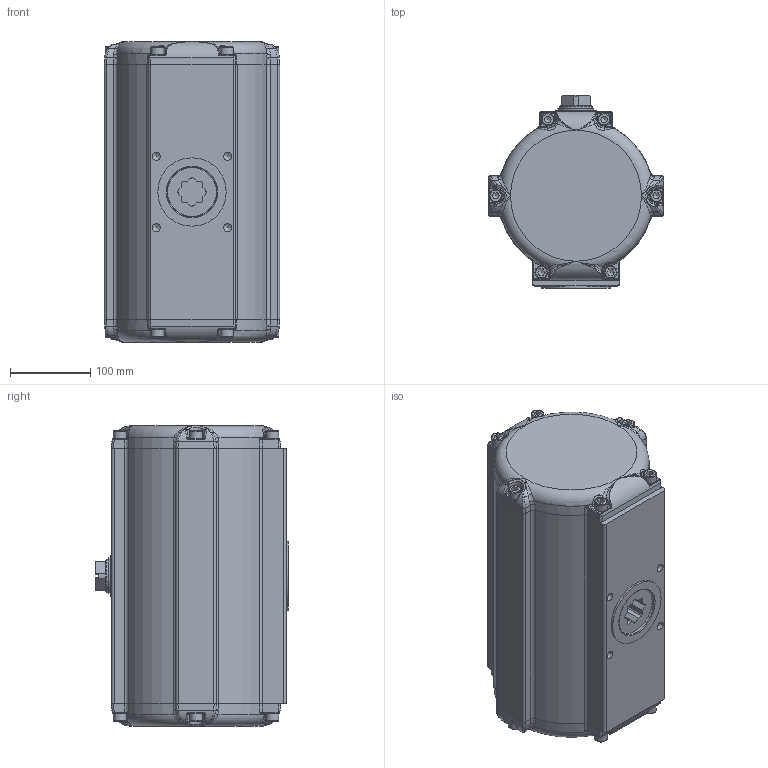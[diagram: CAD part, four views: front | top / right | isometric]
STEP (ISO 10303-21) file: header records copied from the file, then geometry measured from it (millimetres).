
FILE_DESCRIPTION((''),'2;1');
FILE_NAME('C:\Dokumente und Einstellungen\ko-p\Desktop\SAD_35-135°_BR03.stp','2011-02-02T09:26:10',('war'),(''),'Autodesk Inventor 2010','Autodesk Inventor 2010','');
FILE_SCHEMA(('AUTOMOTIVE_DESIGN { 1 0 10303 214 1 1 1 1 }'));
Length unit declared in the file: millimetre
Products named in the file (1): ENG-051464_Konturvereinfachung_1
Bounding box: 218 x 240 x 373.4 mm (x, y, z)
Surface area: 464991.3 mm2 (no closed solid volume)
Topology: 0 solids, 24 shells, 599 faces, 2090 edges, 1454 vertices
Faces by surface type: bspline 209, plane 201, cylinder 130, cone 38, torus 21
Full cylindrical faces by diameter (mm): 16 x12, 37 x1, 39.8 x1, 60 x1, 85 x1, 176 x1
Entity records: 29944 total; most frequent: CARTESIAN_POINT 14135, ORIENTED_EDGE 3198, DIRECTION 2498, EDGE_CURVE 1960, VERTEX_POINT 1410, AXIS2_PLACEMENT_3D 959, EDGE_LOOP 731, B_SPLINE_CURVE_WITH_KNOTS 719
